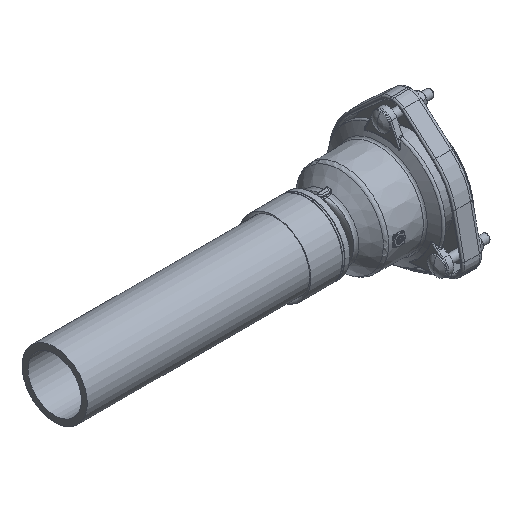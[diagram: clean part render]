
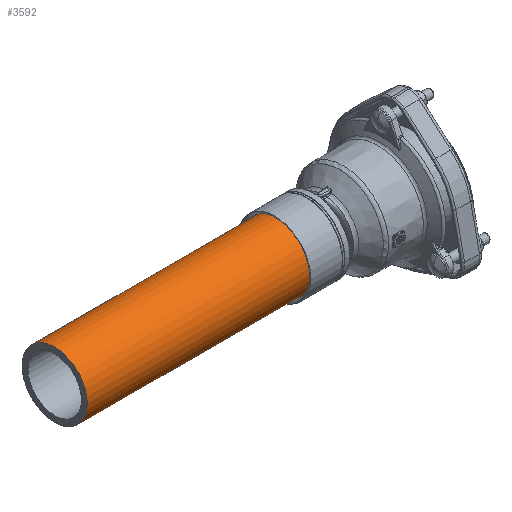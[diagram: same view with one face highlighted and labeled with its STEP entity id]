
A CAD part, isometric view. The second image highlights one B-rep face of the part: STEP entity #3592.
In plain terms, the highlighted cylindrical face has radius 62.5 mm (diameter 125 mm), a full revolution.
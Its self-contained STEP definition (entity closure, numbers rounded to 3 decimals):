
#3565=CARTESIAN_POINT('',(-638.0,0.0,0.0));
#3566=DIRECTION('',(1.0,0.0,0.0));
#3567=DIRECTION('',(0.0,0.0,1.0));
#3568=AXIS2_PLACEMENT_3D('',#3565,#3566,#3567);
#3569=CYLINDRICAL_SURFACE('',#3568,62.5);
#3570=CARTESIAN_POINT('',(-638.0,0.,-62.5));
#3571=VERTEX_POINT('',#3570);
#3572=CARTESIAN_POINT('',(-638.0,0.0,0.0));
#3573=DIRECTION('',(-1.0,0.0,0.0));
#3574=DIRECTION('',(0.0,0.0,1.0));
#3575=AXIS2_PLACEMENT_3D('',#3572,#3573,#3574);
#3576=CIRCLE('',#3575,62.5);
#3577=EDGE_CURVE('',#3571,#3571,#3576,.T.);
#3578=ORIENTED_EDGE('',*,*,#3577,.F.);
#3579=EDGE_LOOP('',(#3578));
#3580=FACE_OUTER_BOUND('',#3579,.T.);
#3581=CARTESIAN_POINT('',(-175.0,0.,-62.5));
#3582=VERTEX_POINT('',#3581);
#3583=CARTESIAN_POINT('',(-175.0,0.0,0.0));
#3584=DIRECTION('',(1.0,0.0,0.0));
#3585=DIRECTION('',(0.0,0.0,1.0));
#3586=AXIS2_PLACEMENT_3D('',#3583,#3584,#3585);
#3587=CIRCLE('',#3586,62.5);
#3588=EDGE_CURVE('',#3582,#3582,#3587,.T.);
#3589=ORIENTED_EDGE('',*,*,#3588,.F.);
#3590=EDGE_LOOP('',(#3589));
#3591=FACE_BOUND('',#3590,.T.);
#3592=ADVANCED_FACE('',(#3580,#3591),#3569,.T.);
